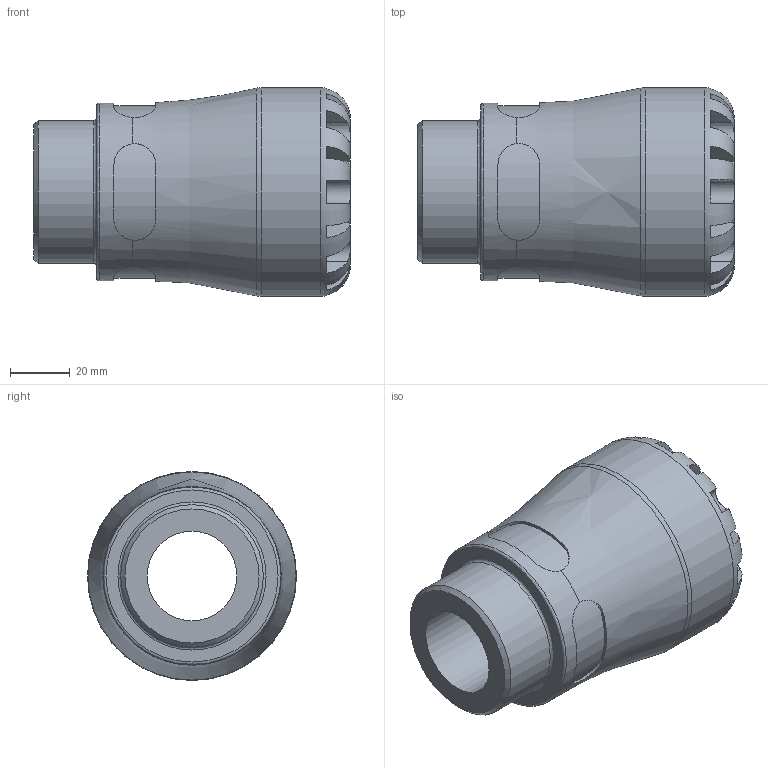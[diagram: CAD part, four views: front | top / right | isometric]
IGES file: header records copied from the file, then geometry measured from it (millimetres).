
Global section: file name: 100200040015_190200040015.ipt; native system: Autodesk Inventor 2015; preprocessor: unknown; author: KIM; date: 20170727.143950; units: millimetre
Bounding box: 106 x 70 x 70 mm (x, y, z)
Volume: 195604.2 mm3; surface area: 38980.3 mm2
Topology: 1 solids, 1 shells, 100 faces, 268 edges, 172 vertices
Faces by surface type: plane 60, revolution 24, cylinder 15, cone 1
Full cylindrical faces by diameter (mm): 47.803 x1, 59.5 x1, 70 x1
